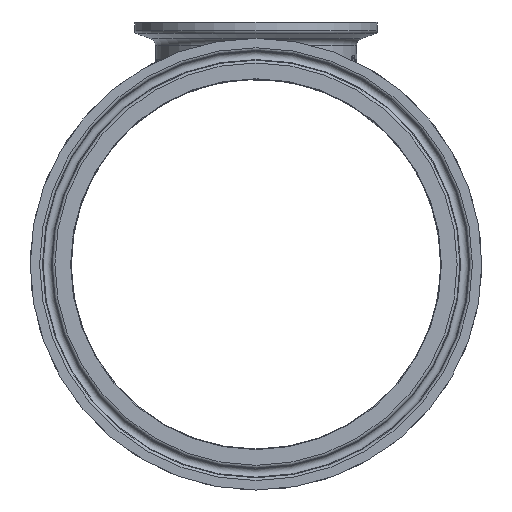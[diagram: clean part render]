
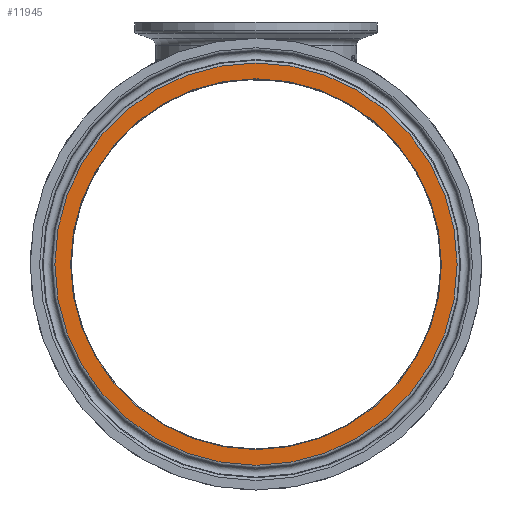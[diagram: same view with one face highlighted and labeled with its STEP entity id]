
A CAD part, left-side view. The second image highlights one B-rep face of the part: STEP entity #11945.
In plain terms, the highlighted planar face has unit normal (-1, 0, 0).
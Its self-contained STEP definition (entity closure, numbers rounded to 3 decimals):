
#273=PLANE('',#12601);
#1681=CIRCLE('',#12602,48.84);
#1682=CIRCLE('',#12603,52.997);
#2197=ORIENTED_EDGE('',*,*,#4670,.T.);
#2198=ORIENTED_EDGE('',*,*,#4671,.T.);
#4670=EDGE_CURVE('',#5923,#5923,#1681,.T.);
#4671=EDGE_CURVE('',#5924,#5924,#1682,.T.);
#5923=VERTEX_POINT('',#16504);
#5924=VERTEX_POINT('',#16506);
#6996=EDGE_LOOP('',(#2197));
#6997=EDGE_LOOP('',(#2198));
#7646=FACE_BOUND('',#6996,.T.);
#7647=FACE_BOUND('',#6997,.T.);
#11945=ADVANCED_FACE('',(#7646,#7647),#273,.F.);
#12601=AXIS2_PLACEMENT_3D('',#16502,#13392,#13393);
#12602=AXIS2_PLACEMENT_3D('',#16503,#13394,#13395);
#12603=AXIS2_PLACEMENT_3D('',#16505,#13396,#13397);
#13392=DIRECTION('',(1.,0.,0.));
#13393=DIRECTION('',(0.,-1.,0.));
#13394=DIRECTION('',(1.,0.,0.));
#13395=DIRECTION('',(0.,0.,-1.));
#13396=DIRECTION('',(-1.,0.,0.));
#13397=DIRECTION('',(0.,-1.,0.));
#16502=CARTESIAN_POINT('',(-110.,55.,0.));
#16503=CARTESIAN_POINT('',(-110.,0.,0.));
#16504=CARTESIAN_POINT('',(-110.,0.,-48.84));
#16505=CARTESIAN_POINT('',(-110.,0.,0.));
#16506=CARTESIAN_POINT('',(-110.,-52.997,0.));
